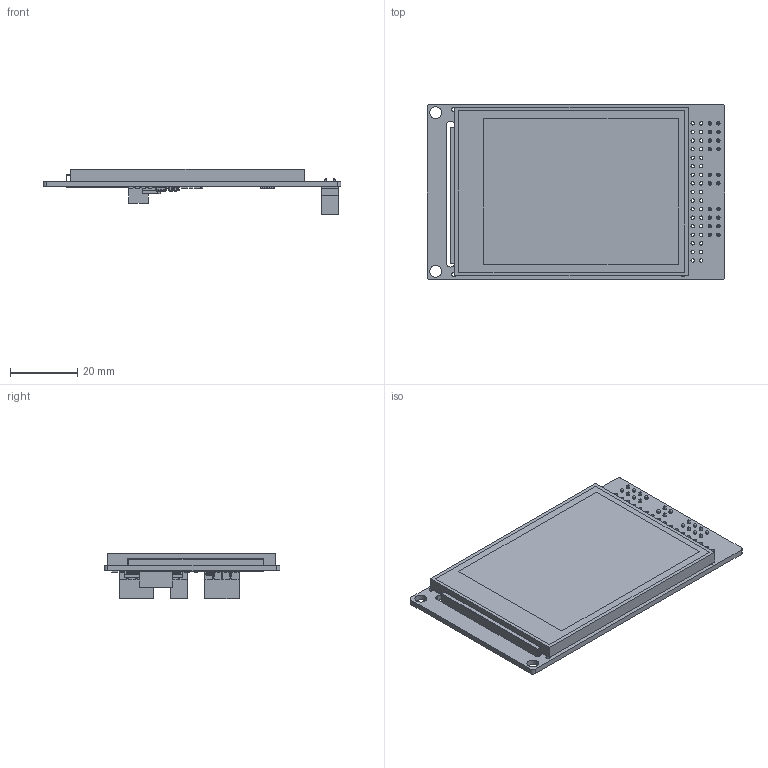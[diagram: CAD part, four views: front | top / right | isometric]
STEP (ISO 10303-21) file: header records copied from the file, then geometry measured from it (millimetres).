
FILE_DESCRIPTION(('Open CASCADE Model'),'2;1');
FILE_NAME('Open CASCADE Shape Model','2023-07-12T15:46:08',('Author'),( 'Open CASCADE'),'Open CASCADE STEP processor 7.5','Open CASCADE 7.5' ,'Unknown');
FILE_SCHEMA(('AUTOMOTIVE_DESIGN { 1 0 10303 214 1 1 1 1 }'));
Length unit declared in the file: millimetre
Products named in the file (102): PCB; Board; Open CASCADE STEP translator 7.5 1.1.1; CN3; XF2B_5145_31A; 6633435824; Extruded; 6633435664; 6633435504; C6; C0402; 6633434704; R6; R0603; 6633430384; R5; 6633438064; R3; R2; R10; R9; C3; C0603; 6633435024; R12; R13; R14; R15; R16; R17; R18; R19; R24; T2; SOT23-6; 6633437264; CN1; TSW-104-07-X-D; _TSW-104-07-G-D_body; _T-1S6-07-TSW-1-07-4-D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
Assembly tree (172 placements, depth 4):
  PCB
    Board
      Open CASCADE STEP translator 7.5 1.1.1
    CN3
      XF2B_5145_31A
      6633435824
        Extruded
      6633435664
        Extruded
      6633435504
        Extruded
    C6
      C0402
      6633434704
        Extruded
    R6
      R0603
      6633430384
        Extruded
    R5
      R0603
      6633438064
        Extruded
    R3
      R0603
      6633438064
        Extruded
    R2
      R0603
      6633438064
        Extruded
    R10
      R0603
      6633430384
        Extruded
    R9
      R0603
      6633430384
        Extruded
    C3
      C0603
      6633435024
        Extruded
    R12
      R0603
      6633430384
        Extruded
    R13
      R0603
      6633430384
        Extruded
    R14
      R0603
      6633438064
        Extruded
    R15
      R0603
      6633438064
        Extruded
    R16
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Bounding box: 88.27 x 52.07 x 13.62 mm (x, y, z)
Volume: 42358.1 mm3; surface area: 36294.8 mm2
Topology: 189 solids, 189 shells, 11537 faces, 28273 edges, 16673 vertices
Faces by surface type: plane 5904, cylinder 2425, bspline 1934, sphere 1078, torus 180, revolution 16
Full cylindrical faces by diameter (mm): 1 x57, 1.2 x4, 3.5 x2
Entity records: 144949 total; most frequent: CARTESIAN_POINT 35330, ORIENTED_EDGE 21842, DIRECTION 19224, EDGE_CURVE 10921, LINE 9734, VECTOR 9734, VERTEX_POINT 6997, AXIS2_PLACEMENT_3D 4741
